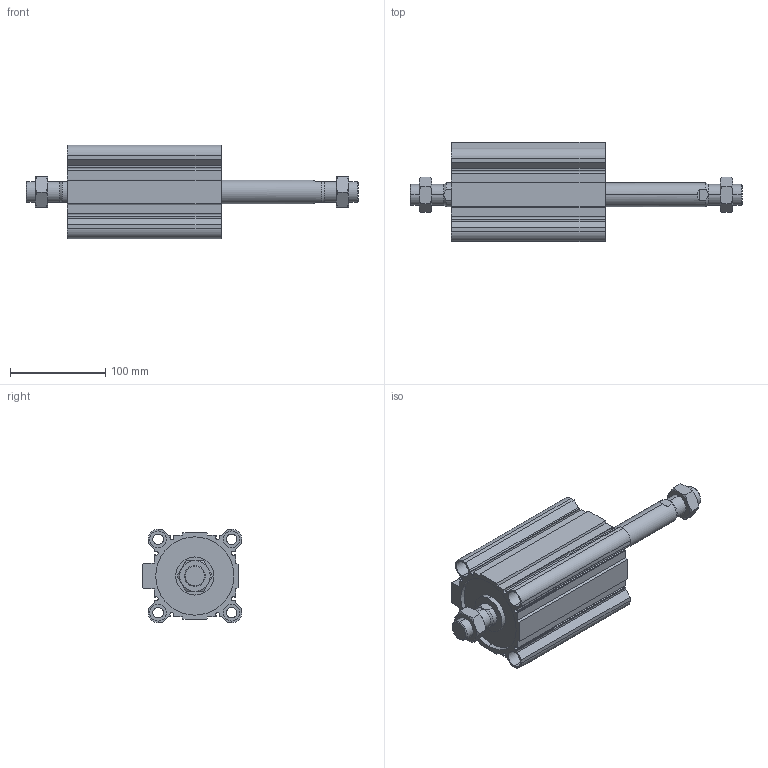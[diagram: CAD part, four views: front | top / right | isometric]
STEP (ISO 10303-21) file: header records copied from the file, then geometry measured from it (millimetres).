
FILE_DESCRIPTION (( 'STEP AP203' ), '1' );
FILE_NAME ('CCMB80-100M-P.STEP', '2020-08-10T11:56:29', ( '' ), ( '' ), 'SwSTEP 2.0', 'SolidWorks 2019', '' );
FILE_SCHEMA (( 'CONFIG_CONTROL_DESIGN' ));
Length unit declared in the file: millimetre
Products named in the file (1): CCMB80-100M-P
Bounding box: 348 x 104 x 98 mm (x, y, z)
Volume: 868299.5 mm3; surface area: 220302.5 mm2
Topology: 4 solids, 4 shells, 228 faces, 558 edges, 356 vertices
Faces by surface type: plane 106, cylinder 78, cone 44
Entity records: 7569 total; most frequent: CARTESIAN_POINT 2055, DIRECTION 1148, ORIENTED_EDGE 1116, EDGE_CURVE 558, AXIS2_PLACEMENT_3D 425, VERTEX_POINT 356, LINE 298, VECTOR 298
